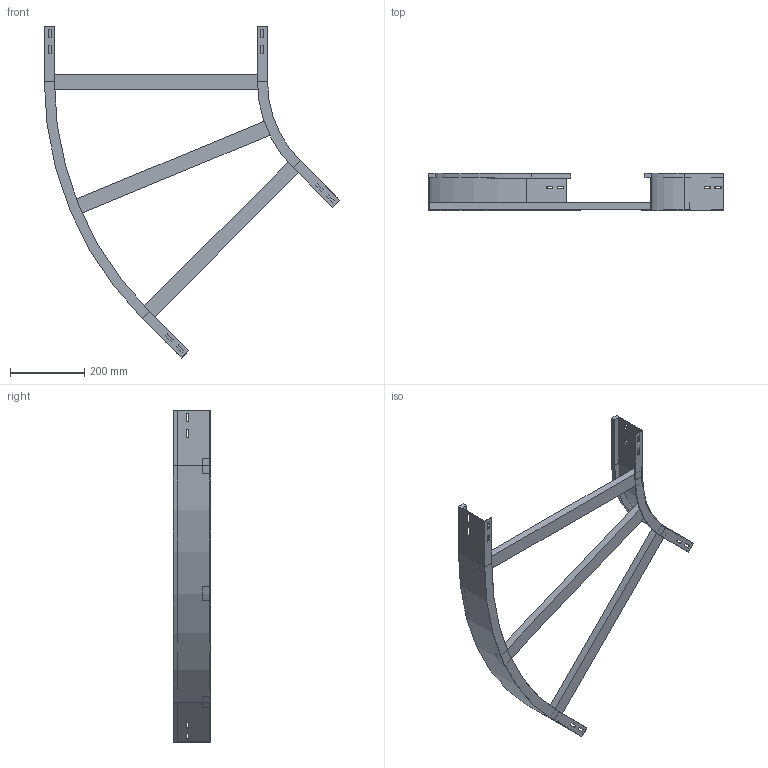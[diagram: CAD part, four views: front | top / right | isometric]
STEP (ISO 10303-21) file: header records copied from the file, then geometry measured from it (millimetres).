
FILE_DESCRIPTION (( 'STEP AP214' ), '1' );
FILE_NAME ('A2_11B3D600.step', '2025-02-21T15:12:31', ( '' ), ( '' ), 'SwSTEP 2.0', 'SolidWorks 2023', '' );
FILE_SCHEMA (( 'AUTOMOTIVE_DESIGN' ));
Length unit declared in the file: millimetre
Products named in the file (4): A2_11B3D600; A2_LONGH.INTERNO 45°_H100_R300; A2_LONGH.ESTERNO 45°_H100_R300+600; TRAVERSINO_600
Assembly tree (5 placements, depth 2):
  A2_11B3D600
    A2_LONGH.INTERNO 45°_H100_R300
    A2_LONGH.ESTERNO 45°_H100_R300+600
    TRAVERSINO_600  x3
Bounding box: 793.93 x 100 x 892.46 mm (x, y, z)
Volume: 2125127.2 mm3; surface area: 661052.6 mm2
Topology: 5 solids, 5 shells, 134 faces, 340 edges, 216 vertices
Faces by surface type: plane 126, cylinder 8
Entity records: 3821 total; most frequent: CARTESIAN_POINT 646, ORIENTED_EDGE 632, DIRECTION 592, EDGE_CURVE 316, LINE 300, VECTOR 300, VERTEX_POINT 200, EDGE_LOOP 154
